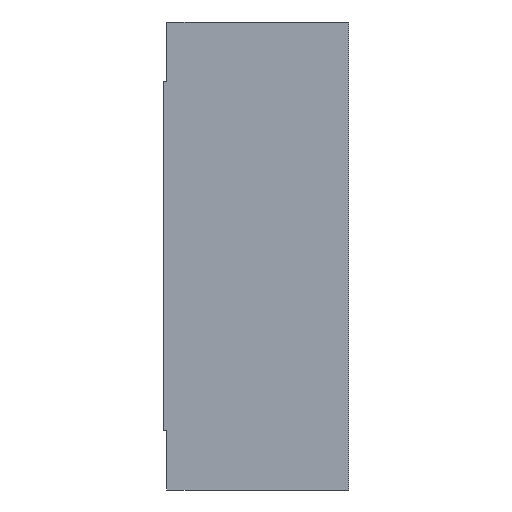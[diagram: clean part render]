
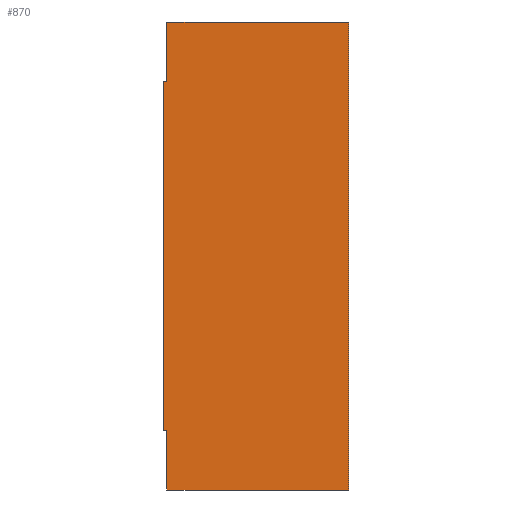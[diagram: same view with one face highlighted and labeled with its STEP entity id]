
A CAD part, left-side view. The second image highlights one B-rep face of the part: STEP entity #870.
In plain terms, the highlighted planar face has unit normal (-1, 0, 0).
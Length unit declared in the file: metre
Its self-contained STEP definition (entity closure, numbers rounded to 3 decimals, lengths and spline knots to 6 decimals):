
#168=ORIENTED_EDGE('',*,*,#296,.T.);
#169=ORIENTED_EDGE('',*,*,#356,.F.);
#170=ORIENTED_EDGE('',*,*,#350,.T.);
#171=ORIENTED_EDGE('',*,*,#346,.T.);
#172=ORIENTED_EDGE('',*,*,#355,.F.);
#173=ORIENTED_EDGE('',*,*,#357,.T.);
#174=ORIENTED_EDGE('',*,*,#299,.F.);
#175=ORIENTED_EDGE('',*,*,#358,.F.);
#296=EDGE_CURVE('',#405,#407,#494,.T.);
#299=EDGE_CURVE('',#410,#411,#497,.T.);
#346=EDGE_CURVE('',#445,#446,#535,.T.);
#350=EDGE_CURVE('',#449,#445,#539,.T.);
#355=EDGE_CURVE('',#452,#446,#544,.T.);
#356=EDGE_CURVE('',#449,#407,#545,.T.);
#357=EDGE_CURVE('',#452,#411,#546,.T.);
#358=EDGE_CURVE('',#405,#410,#547,.T.);
#405=VERTEX_POINT('',#1265);
#407=VERTEX_POINT('',#1269);
#410=VERTEX_POINT('',#1276);
#411=VERTEX_POINT('',#1278);
#445=VERTEX_POINT('',#1377);
#446=VERTEX_POINT('',#1378);
#449=VERTEX_POINT('',#1386);
#452=VERTEX_POINT('',#1394);
#494=LINE('',#1270,#574);
#497=LINE('',#1277,#577);
#535=LINE('',#1376,#615);
#539=LINE('',#1385,#619);
#544=LINE('',#1395,#624);
#545=LINE('',#1397,#625);
#546=LINE('',#1398,#626);
#547=LINE('',#1399,#627);
#574=VECTOR('',#1012,1.);
#577=VECTOR('',#1017,1.);
#615=VECTOR('',#1109,1.);
#619=VECTOR('',#1115,1.);
#624=VECTOR('',#1122,1.);
#625=VECTOR('',#1125,1.);
#626=VECTOR('',#1126,1.);
#627=VECTOR('',#1127,1.);
#678=EDGE_LOOP('',(#168,#169,#170,#171,#172,#173,#174,#175));
#756=FACE_BOUND('',#678,.T.);
#835=PLANE('',#949);
#870=ADVANCED_FACE('',(#756),#835,.F.);
#949=AXIS2_PLACEMENT_3D('',#1396,#1123,#1124);
#1012=DIRECTION('',(0.,-1.,0.));
#1017=DIRECTION('',(0.,-1.,0.));
#1109=DIRECTION('',(0.,0.,1.));
#1115=DIRECTION('',(0.,-1.,0.));
#1122=DIRECTION('',(0.,-1.,0.));
#1123=DIRECTION('',(1.,0.,0.));
#1124=DIRECTION('',(0.,0.,-1.));
#1125=DIRECTION('',(0.,0.,1.));
#1126=DIRECTION('',(0.,0.,-1.));
#1127=DIRECTION('',(0.,0.,1.));
#1265=CARTESIAN_POINT('',(0.,0.0265,-0.0585));
#1269=CARTESIAN_POINT('',(0.,0.026,-0.0585));
#1270=CARTESIAN_POINT('',(0.,0.0265,-0.0585));
#1276=CARTESIAN_POINT('',(0.,0.0265,-0.0085));
#1277=CARTESIAN_POINT('',(0.,0.0265,-0.0085));
#1278=CARTESIAN_POINT('',(0.,0.026,-0.0085));
#1376=CARTESIAN_POINT('',(0.,0.,0.));
#1377=CARTESIAN_POINT('',(0.,0.,-0.067));
#1378=CARTESIAN_POINT('',(0.,0.,0.));
#1385=CARTESIAN_POINT('',(0.,0.0265,-0.067));
#1386=CARTESIAN_POINT('',(0.,0.026,-0.067));
#1394=CARTESIAN_POINT('',(0.,0.026,0.));
#1395=CARTESIAN_POINT('',(0.,0.0265,0.));
#1396=CARTESIAN_POINT('',(0.,0.0265,0.));
#1397=CARTESIAN_POINT('',(0.,0.026,-0.067));
#1398=CARTESIAN_POINT('',(0.,0.026,0.));
#1399=CARTESIAN_POINT('',(0.,0.0265,0.));
